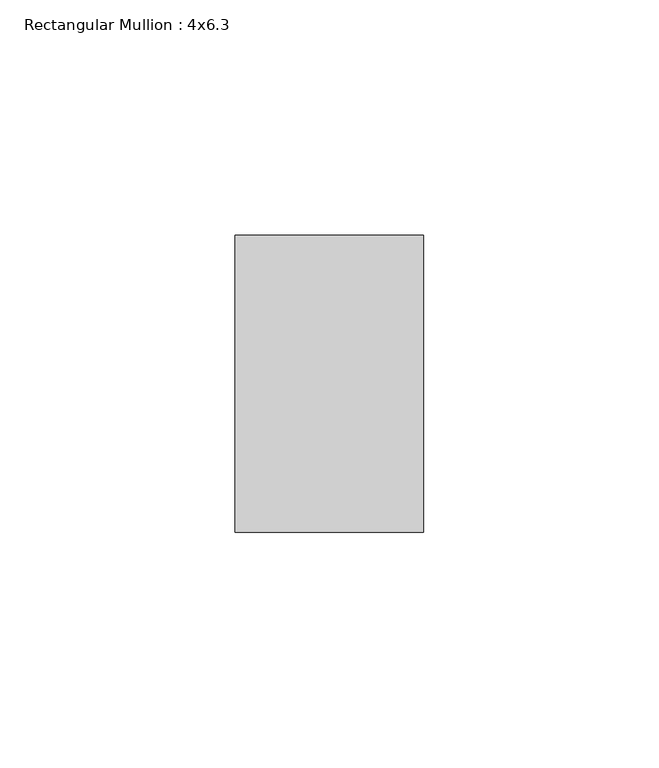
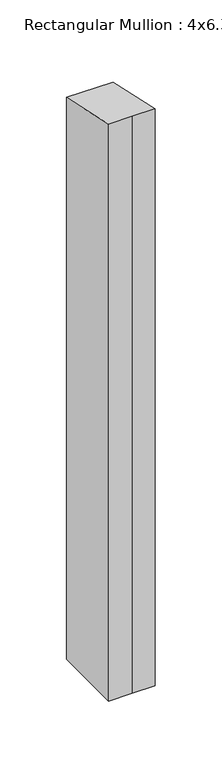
"""IFC4 building model written with IfcOpenShell, lengths in millimetres: member geometry, Rectangular Mullion : 4x6.3."""

from ifc_helpers import new_model, si_unit, origin, place, context, project, spatial, faceted_brep, source, transform, mapped, element, save


def rectangular_mullion_4x6_3_8ab4ef8e(model_context):
    return source(origin(), model_context, "Body", "Brep", [
        faceted_brep([(-20.0, 20.0, -531.2906386), (-20.0, 83.0, -531.2906386), (20.0, 83.0, -531.2906386), (20.0, 20.0, -531.2906386), (0.0, 20.0, -531.2906386), (0.0, 20.0, -4.3995804), (-20.0, 20.0, -4.3995804), (20.0, 20.0, -4.3995804), (20.0, 83.0, -18.2582585), (-20.0, 83.0, -18.2582585)], [[[0, 1, 2, 3, 4]], [[5, 6, 0, 4]], [[7, 5, 4, 3]], [[8, 7, 3, 2]], [[9, 8, 2, 1]], [[6, 9, 1, 0]], [[6, 5, 7, 8, 9]]]),
    ])


if __name__ == "__main__":
    model = new_model("IFC4")
    model_context = context("Model", 3, world=origin())
    ifc_project = project(units=[si_unit("LENGTHUNIT", "METRE", prefix="MILLI")], contexts=[model_context])
    site = spatial("IfcSite", under=ifc_project)
    building = spatial("IfcBuilding", under=site)
    placement = place(None, origin())
    rectangular_mullion_4x6_3_shape = rectangular_mullion_4x6_3_8ab4ef8e(model_context)
    element("IfcMember", 1, ObjectType="Rectangular Mullion : 4x6.3", at=placement, inside=building, context=model_context, shape_type="MappedRepresentation", body=[
        mapped(rectangular_mullion_4x6_3_shape, transform((0.0, 0.0, 0.0), x_axis=(1.0, 0.0, 0.0), y_axis=(0.0, 1.0, 0.0), z_axis=(0.0, 0.0, 1.0))),
    ])
    save(model, "model.ifc")
